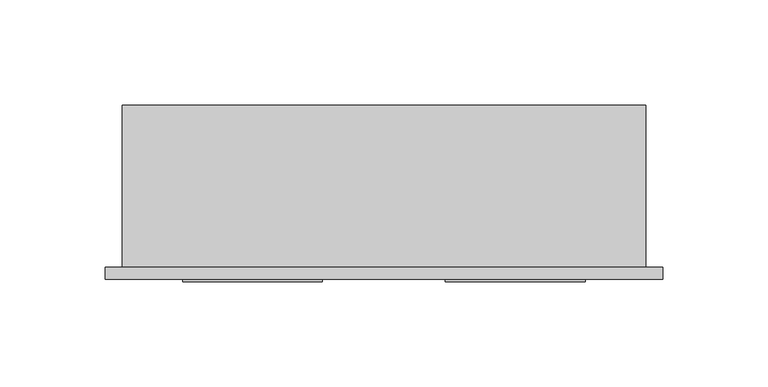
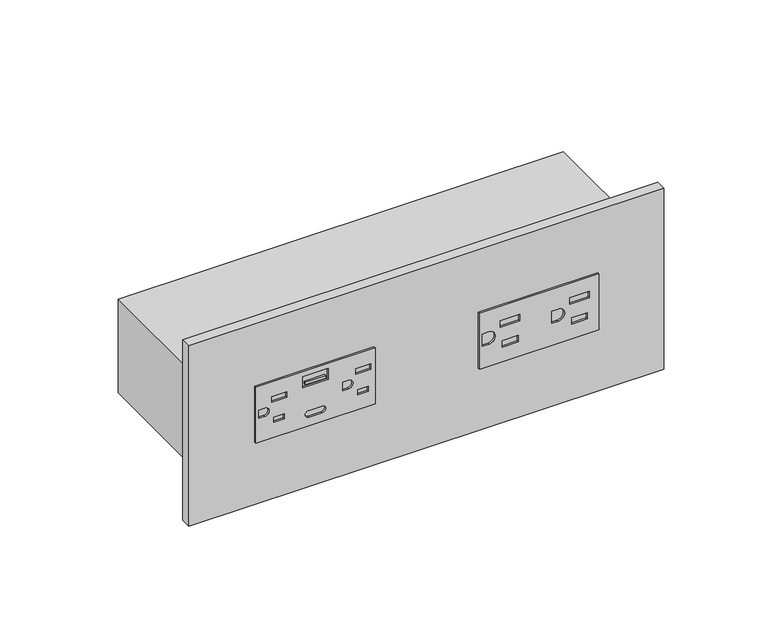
"""IFC4 building model written with IfcOpenShell, lengths in millimetres: proxy geometry, Electrical-Teknion-EPDHD_Horizontal_Power_Data_Double-R2019 : PD Horizontal Module - Double 15 Amp USB (A+C) & 15 Amp Standard."""

from ifc_helpers import new_model, si_unit, point, frame, frame_2d, origin, place, context, project, spatial, polyline, circle_curve, trimmed, segment, composite_curve, outline, extrude, source, transform, mapped, element, save


def electrical_fixtures_d6838e8a(model_context):
    return source(origin(), model_context, "Body", "SweptSolid", [
        extrude(outline(polyline([(821.6131229, 220.2976041), (854.6077229, 220.2976041), (854.6077229, 153.6177375), (821.6131229, 153.6177375), (821.6131229, 220.2976041)]), holes=[polyline([(842.2804146, 214.9176149), (842.2804146, 204.0576366), (846.1104069, 204.0576366), (846.1104069, 214.9176149), (842.2804146, 214.9176149)]), polyline([(830.1104389, 213.9176169), (830.1104389, 205.0576346), (833.9404313, 205.0576346), (833.9404313, 213.9176169), (830.1104389, 213.9176169)]), composite_curve([segment(polyline([(841.7426229, 193.8927344), (841.7426229, 197.5249344)]), True, "CONTINUOUS"), segment(trimmed(circle_curve(frame_2d((838.1104229, 197.5249344)), 3.6322), [point((841.7426229, 197.5249344))], [point((834.4782229, 197.5249344))], True, "CARTESIAN"), True, "CONTINUOUS"), segment(polyline([(834.4782229, 197.5249344), (834.4782229, 193.8927344), (841.7426229, 193.8927344)]), True, "CONTINUOUS")], self_intersect=False), polyline([(842.2804146, 176.1776924), (842.2804146, 165.3177141), (846.1104069, 165.3177141), (846.1104069, 176.1776924), (842.2804146, 176.1776924)]), polyline([(830.1104389, 175.1776944), (830.1104389, 166.3177121), (833.9404313, 166.3177121), (833.9404313, 175.1776944), (830.1104389, 175.1776944)]), composite_curve([segment(polyline([(834.4782229, 158.7899344), (834.4782229, 155.1577344), (841.7426229, 155.1577344), (841.7426229, 158.7899344)]), True, "CONTINUOUS"), segment(trimmed(circle_curve(frame_2d((838.1104229, 158.7899344)), 3.6322), [point((841.7426229, 158.7899344))], [point((834.4782229, 158.7899344))], True, "CARTESIAN"), True, "CONTINUOUS")], self_intersect=False)]), frame((0.0, -6.9294746, 0.0), z_axis=(0.0, 1.0, 0.0), x_axis=(0.0, 0.0, 1.0)), (0.0, 0.0, 1.0), 1.0366746),
        extrude(outline(polyline([(821.6131229, 95.1883983), (854.6077229, 95.1883983), (854.6077229, 28.6403983), (821.6131229, 28.6403983), (821.6131229, 95.1883983)]), holes=[polyline([(842.7521499, 92.7422735), (842.7521499, 84.4265232), (846.0795499, 84.4265232), (846.0795499, 92.7422735), (842.7521499, 92.7422735)]), polyline([(830.2973829, 91.4959746), (830.2973829, 85.6728221), (833.2717229, 85.6728221), (833.2717229, 91.4959746), (830.2973829, 91.4959746)]), composite_curve([segment(polyline([(835.6466229, 77.1543983), (840.5742229, 77.1543983), (840.5742229, 80.4516358)]), True, "CONTINUOUS"), segment(trimmed(circle_curve(frame_2d((838.1104229, 80.4516358)), 2.4638), [point((840.5742229, 80.4516358))], [point((835.6466229, 80.4516358))], True, "CARTESIAN"), True, "CONTINUOUS"), segment(polyline([(835.6466229, 80.4516358), (835.6466229, 77.1543983)]), True, "CONTINUOUS")], self_intersect=False), polyline([(842.7521499, 45.7522735), (842.7521499, 37.4365232), (846.0827049, 37.4365232), (846.0827049, 45.7522735), (842.7521499, 45.7522735)]), polyline([(830.3161837, 44.5059746), (830.3161837, 38.6828221), (833.2906533, 38.6828221), (833.2906533, 44.5059746), (830.3161837, 44.5059746)]), composite_curve([segment(polyline([(835.6466229, 30.1643983), (840.5742229, 30.1643983), (840.5742229, 33.5112452)]), True, "CONTINUOUS"), segment(trimmed(circle_curve(frame_2d((838.1104229, 33.5112452)), 2.4638), [point((840.5742229, 33.5112452))], [point((835.6466229, 33.5112452))], True, "CARTESIAN"), True, "CONTINUOUS"), segment(polyline([(835.6466229, 33.5112452), (835.6466229, 30.1643983)]), True, "CONTINUOUS")], self_intersect=False), polyline([(845.1828612, 68.9581973), (845.1828612, 54.8644614), (851.6839163, 54.8644614), (851.6839163, 68.9581973), (845.1828612, 68.9581973)]), composite_curve([segment(trimmed(circle_curve(frame_2d((828.5727229, 58.1297983)), 1.905), [point((826.6677229, 58.1297983))], [point((830.4777229, 58.1297983))], True, "CARTESIAN"), True, "CONTINUOUS"), segment(polyline([(830.4777229, 58.1297983), (830.4777229, 65.6989983)]), True, "CONTINUOUS"), segment(trimmed(circle_curve(frame_2d((828.5727229, 65.6989983)), 1.905), [point((830.4777229, 65.6989983))], [point((826.6677229, 65.6989983))], True, "CARTESIAN"), True, "CONTINUOUS"), segment(polyline([(826.6677229, 65.6989983), (826.6677229, 58.1297983)]), True, "CONTINUOUS")], self_intersect=False)]), frame((0.0, -6.9294746, 0.0), z_axis=(0.0, 1.0, 0.0), x_axis=(0.0, 0.0, 1.0)), (0.0, 0.0, 1.0), 1.0366746),
        extrude(outline(polyline([(67.6331469, -6.9294746), (56.1895117, -6.9294746), (56.1895117, -5.8928), (67.6331469, -5.8928), (67.6331469, -6.9294746)])), frame((0.0, 0.0, 846.3926879), z_axis=(0.0, 0.0, 1.0), x_axis=(1.0, 0.0, 0.0)), (0.0, 0.0, 1.0), 1.5209293),
        extrude(outline(polyline([(-8.2450977, 0.0), (257.1652913, 0.0), (257.1652913, -5.8928), (-8.2450977, -5.8928), (-8.2450977, 0.0)])), frame((0.0, 0.0, 784.6718508), z_axis=(0.0, 0.0, 1.0), x_axis=(1.0, 0.0, 0.0)), (0.0, 0.0, 1.0), 106.8771443),
        extrude(outline(polyline([(248.92, 0.0), (0.0, 0.0), (0.0, 77.054), (248.92, 77.054), (248.92, 0.0)])), frame((0.0, 0.0, 810.3355229), z_axis=(0.0, 0.0, 1.0), x_axis=(1.0, 0.0, 0.0)), (0.0, 0.0, 1.0), 55.5498),
    ])


if __name__ == "__main__":
    model = new_model("IFC4")
    model_context = context("Model", 3, world=origin())
    ifc_project = project(units=[si_unit("LENGTHUNIT", "METRE", prefix="MILLI")], contexts=[model_context])
    site = spatial("IfcSite", under=ifc_project)
    building = spatial("IfcBuilding", under=site)
    placement = place(None, origin())
    electrical_fixtures_shape = electrical_fixtures_d6838e8a(model_context)
    element("IfcBuildingElementProxy", 1, Name="Electrical-Teknion-EPDHD_Horizontal_Power_Data_Double-R2019 : PD Horizontal Module - Double 15 Amp USB (A+C) & 15 Amp Standard", ObjectType="Electrical-Teknion-EPDHD_Horizontal_Power_Data_Double-R2019 : PD Horizontal Module - Double 15 Amp USB (A+C) & 15 Amp Standard", at=placement, inside=building, context=model_context, shape_type="MappedRepresentation", body=[
        mapped(electrical_fixtures_shape, transform((0.0, 0.0, 0.0), x_axis=(1.0, 0.0, 0.0), y_axis=(0.0, 1.0, 0.0), z_axis=(0.0, 0.0, 1.0))),
    ])
    save(model, "model.ifc")
